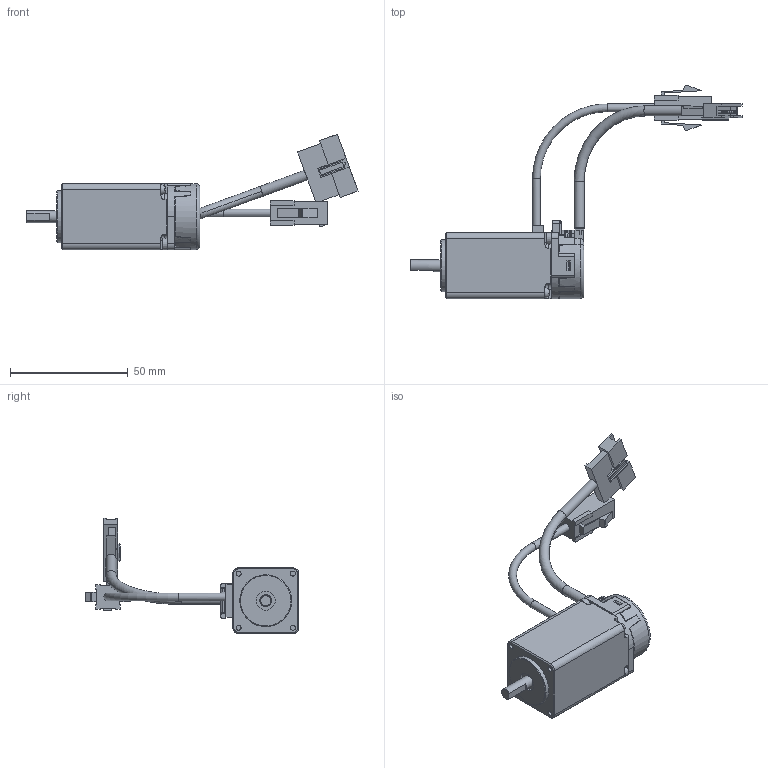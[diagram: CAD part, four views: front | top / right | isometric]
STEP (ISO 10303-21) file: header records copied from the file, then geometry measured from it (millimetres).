
FILE_DESCRIPTION(/* description */ (''),/* implementation_level */ '2;1');
FILE_NAME(/* name */ '\\EMN0D5F01\rp_inventor\RP Mechanical Design\Wiley\Updated Models\eCLM-P112D.stp',/* time_stamp */ '2016-10-27T14:55:37-07:00',/* author */ ('JDB'),/* organization */ ('Parker Hannifin Corp'),/* preprocessor_version */ 'ST-DEVELOPER v15.2',/* originating_system */ 'Autodesk Inventor 2014',/* authorisation */ '');
FILE_SCHEMA (('CONFIG_CONTROL_DESIGN'));
Products named in the file (1): eCLM-P112D_sw
Bounding box: 140.69 x 90.51 x 48.95 mm (x, y, z)
Volume: 43216.5 mm3; surface area: 21759.1 mm2
Topology: 3 solids, 4 shells, 3786 faces, 10736 edges, 7080 vertices
Faces by surface type: plane 3228, cylinder 402, cone 76, bspline 42, torus 34, sphere 4
Full cylindrical faces by diameter (mm): 1 x13, 1.5 x4, 1.55 x2, 1.57 x1, 2.1 x6, 2.75 x2, 3.3 x2, 4.3 x2, 5 x2, 6 x2, 8 x2, 10 x1, 22 x1
Entity records: 124115 total; most frequent: CARTESIAN_POINT 25571, ORIENTED_EDGE 21336, DIRECTION 19029, EDGE_CURVE 10670, LINE 9415, VECTOR 9415, VERTEX_POINT 7064, AXIS2_PLACEMENT_3D 4807
